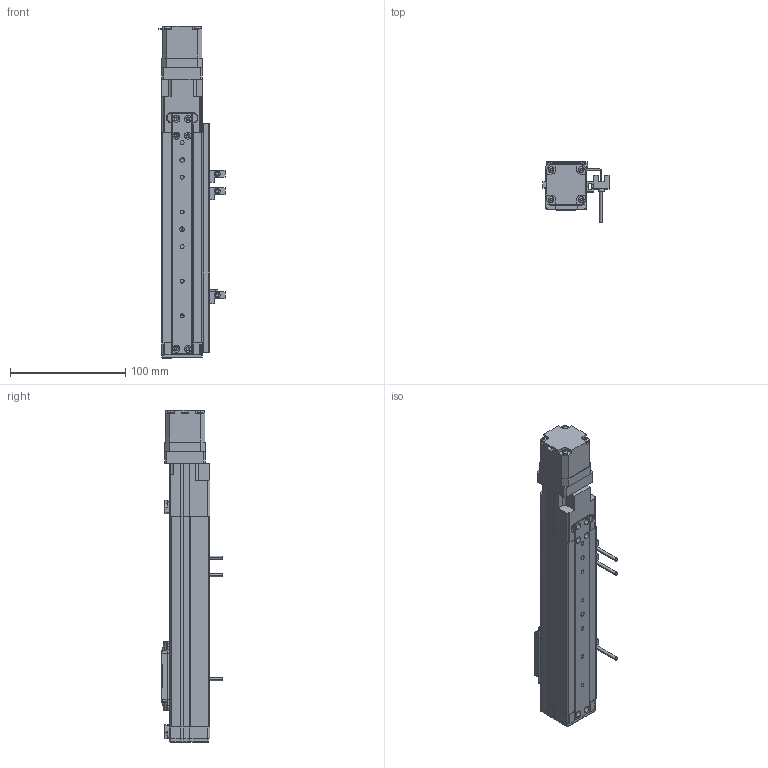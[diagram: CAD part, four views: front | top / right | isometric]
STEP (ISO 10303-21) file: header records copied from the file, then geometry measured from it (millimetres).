
FILE_DESCRIPTION (( 'STEP AP203' ), '1' );
FILE_NAME ('PES035SON-0825-ST100-35NN00-N-I3R.STEP', '2015-10-06T07:46:03', ( '' ), ( '' ), 'SwSTEP 2.0', 'SolidWorks 2012', '' );
FILE_SCHEMA (( 'CONFIG_CONTROL_DESIGN' ));
Products named in the file (7): PES035SON-0825-ST100-35NN00-N-I3R; PM-R24; SDWA-16C; PES035-Carrier UPPER COVER; PES035S-100ST Part; PES035-Carrier END COVER; NEMA14
Assembly tree (9 placements, depth 2):
  PES035SON-0825-ST100-35NN00-N-I3R
    PES035S-100ST Part
    NEMA14
    PES035-Carrier UPPER COVER
    PES035-Carrier END COVER  x2
    PM-R24  x3
    SDWA-16C
Bounding box: 57.2 x 53 x 287.5 mm (x, y, z)
Volume: 210233.4 mm3; surface area: 111483.2 mm2
Topology: 12 solids, 48 shells, 1865 faces, 4843 edges, 3057 vertices
Faces by surface type: plane 769, cylinder 646, bspline 236, cone 200, torus 14
Entity records: 58373 total; most frequent: CARTESIAN_POINT 16246, ORIENTED_EDGE 8754, DIRECTION 8666, EDGE_CURVE 4377, AXIS2_PLACEMENT_3D 3203, VERTEX_POINT 2799, LINE 2260, VECTOR 2260
